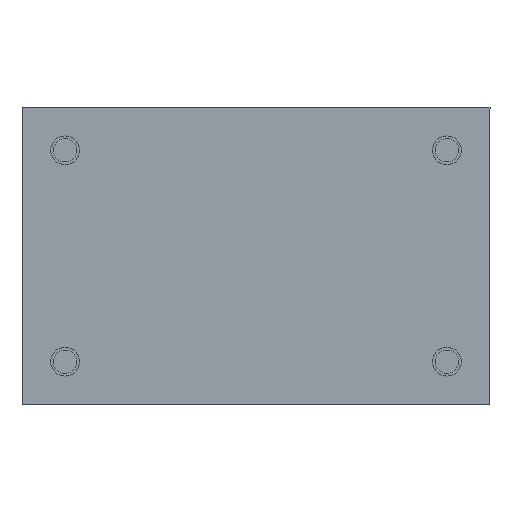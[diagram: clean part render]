
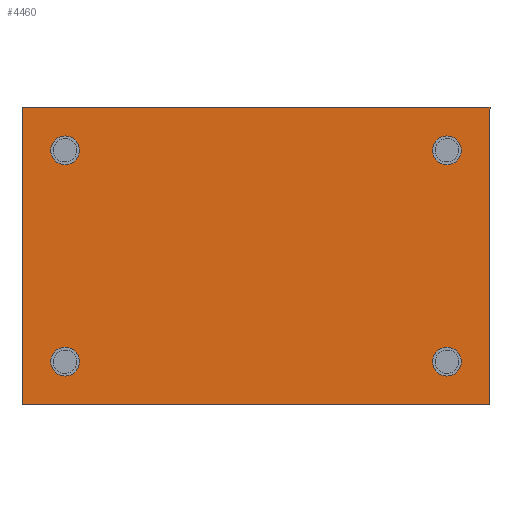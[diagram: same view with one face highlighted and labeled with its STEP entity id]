
A CAD part, front view. The second image highlights one B-rep face of the part: STEP entity #4460.
In plain terms, the highlighted planar face has unit normal (0, -1, 0).
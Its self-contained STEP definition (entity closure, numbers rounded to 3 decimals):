
#23 = CARTESIAN_POINT ( 'NONE',  ( 0.606, 13.272, 60.844 ) ) ;
#240 = EDGE_LOOP ( 'NONE', ( #3191, #3703 ) ) ;
#800 = EDGE_CURVE ( 'NONE', #16917, #23917, #14996, .T. ) ;
#858 = ORIENTED_EDGE ( 'NONE', *, *, #6724, .F. ) ;
#944 = FACE_BOUND ( 'NONE', #17176, .T. ) ;
#1006 = EDGE_CURVE ( 'NONE', #5483, #22077, #11642, .T. ) ;
#1127 = CARTESIAN_POINT ( 'NONE',  ( 46.072, 13.272, 60.844 ) ) ;
#1361 = DIRECTION ( 'NONE',  ( 0., -1., 0. ) ) ;
#1612 = CARTESIAN_POINT ( 'NONE',  ( -1.172, 13.272, 60.844 ) ) ;
#1743 = CARTESIAN_POINT ( 'NONE',  ( -2.95, 13.272, 60.844 ) ) ;
#1982 = CIRCLE ( 'NONE', #9574, 1.778 ) ;
#2123 = CARTESIAN_POINT ( 'NONE',  ( 47.85, 13.272, 34.682 ) ) ;
#2453 = EDGE_CURVE ( 'NONE', #20595, #21784, #13054, .T. ) ;
#2703 = ORIENTED_EDGE ( 'NONE', *, *, #8236, .F. ) ;
#3029 = CARTESIAN_POINT ( 'NONE',  ( 44.294, 13.272, 60.844 ) ) ;
#3174 = DIRECTION ( 'NONE',  ( 0., 0., 1. ) ) ;
#3191 = ORIENTED_EDGE ( 'NONE', *, *, #15722, .F. ) ;
#3309 = CARTESIAN_POINT ( 'NONE',  ( -2.95, 13.272, 34.682 ) ) ;
#3444 = DIRECTION ( 'NONE',  ( 0., -1., 0. ) ) ;
#3703 = ORIENTED_EDGE ( 'NONE', *, *, #2453, .F. ) ;
#4126 = CARTESIAN_POINT ( 'NONE',  ( 51.406, 13.272, 66.178 ) ) ;
#4259 = LINE ( 'NONE', #4126, #22865 ) ;
#4440 = VECTOR ( 'NONE', #13126, 1000. ) ;
#4460 = ADVANCED_FACE ( 'NONE', ( #4803, #944, #12673, #20335, #18179 ), #9045, .F. ) ;
#4803 = FACE_BOUND ( 'NONE', #18350, .T. ) ;
#4974 = CARTESIAN_POINT ( 'NONE',  ( 46.072, 13.272, 60.844 ) ) ;
#5464 = DIRECTION ( 'NONE',  ( -1., 0., 0. ) ) ;
#5483 = VERTEX_POINT ( 'NONE', #23 ) ;
#5622 = DIRECTION ( 'NONE',  ( 1., 0., 0. ) ) ;
#5756 = AXIS2_PLACEMENT_3D ( 'NONE', #1612, #16861, #7588 ) ;
#5930 = EDGE_LOOP ( 'NONE', ( #21774, #5986, #10900, #11591 ) ) ;
#5935 = DIRECTION ( 'NONE',  ( 1., 0., 0. ) ) ;
#5986 = ORIENTED_EDGE ( 'NONE', *, *, #14165, .F. ) ;
#6694 = DIRECTION ( 'NONE',  ( 0., -1., 0. ) ) ;
#6724 = EDGE_CURVE ( 'NONE', #19035, #9271, #20977, .T. ) ;
#6763 = DIRECTION ( 'NONE',  ( 1., 0., 0. ) ) ;
#6793 = VECTOR ( 'NONE', #5464, 1000. ) ;
#7588 = DIRECTION ( 'NONE',  ( 1., 0., 0. ) ) ;
#7686 = ORIENTED_EDGE ( 'NONE', *, *, #17096, .F. ) ;
#7751 = EDGE_CURVE ( 'NONE', #22077, #5483, #10552, .T. ) ;
#8236 = EDGE_CURVE ( 'NONE', #8319, #15059, #21446, .T. ) ;
#8319 = VERTEX_POINT ( 'NONE', #19314 ) ;
#8541 = VERTEX_POINT ( 'NONE', #10225 ) ;
#8602 = AXIS2_PLACEMENT_3D ( 'NONE', #16694, #13072, #24408 ) ;
#9045 = PLANE ( 'NONE',  #10626 ) ;
#9271 = VERTEX_POINT ( 'NONE', #20063 ) ;
#9574 = AXIS2_PLACEMENT_3D ( 'NONE', #23695, #6694, #10345 ) ;
#9690 = ORIENTED_EDGE ( 'NONE', *, *, #7751, .F. ) ;
#10225 = CARTESIAN_POINT ( 'NONE',  ( -6.506, 13.272, 66.178 ) ) ;
#10345 = DIRECTION ( 'NONE',  ( 1., 0., 0. ) ) ;
#10459 = AXIS2_PLACEMENT_3D ( 'NONE', #1127, #1361, #20639 ) ;
#10552 = CIRCLE ( 'NONE', #5756, 1.778 ) ;
#10626 = AXIS2_PLACEMENT_3D ( 'NONE', #10658, #20457, #24264 ) ;
#10658 = CARTESIAN_POINT ( 'NONE',  ( 51.406, 13.272, 66.178 ) ) ;
#10900 = ORIENTED_EDGE ( 'NONE', *, *, #16501, .F. ) ;
#11220 = CARTESIAN_POINT ( 'NONE',  ( 51.406, 13.272, 66.178 ) ) ;
#11233 = CARTESIAN_POINT ( 'NONE',  ( 51.406, 13.272, 66.178 ) ) ;
#11236 = EDGE_LOOP ( 'NONE', ( #16227, #9690 ) ) ;
#11591 = ORIENTED_EDGE ( 'NONE', *, *, #800, .F. ) ;
#11642 = CIRCLE ( 'NONE', #12037, 1.778 ) ;
#12037 = AXIS2_PLACEMENT_3D ( 'NONE', #22913, #3444, #5935 ) ;
#12619 = DIRECTION ( 'NONE',  ( 0., -1., 0. ) ) ;
#12673 = FACE_BOUND ( 'NONE', #240, .T. ) ;
#13049 = CARTESIAN_POINT ( 'NONE',  ( 0.606, 13.272, 34.682 ) ) ;
#13054 = CIRCLE ( 'NONE', #21507, 1.778 ) ;
#13072 = DIRECTION ( 'NONE',  ( 0., -1., 0. ) ) ;
#13126 = DIRECTION ( 'NONE',  ( 1., 0., 0. ) ) ;
#13241 = VECTOR ( 'NONE', #3174, 1000. ) ;
#13620 = EDGE_CURVE ( 'NONE', #15059, #8319, #1982, .T. ) ;
#14165 = EDGE_CURVE ( 'NONE', #8541, #16829, #15237, .T. ) ;
#14711 = LINE ( 'NONE', #16093, #13241 ) ;
#14996 = LINE ( 'NONE', #22820, #6793 ) ;
#15059 = VERTEX_POINT ( 'NONE', #2123 ) ;
#15237 = LINE ( 'NONE', #11220, #4440 ) ;
#15570 = CIRCLE ( 'NONE', #21225, 1.778 ) ;
#15722 = EDGE_CURVE ( 'NONE', #21784, #20595, #15570, .T. ) ;
#15946 = EDGE_CURVE ( 'NONE', #16829, #16917, #4259, .T. ) ;
#16093 = CARTESIAN_POINT ( 'NONE',  ( -6.506, 13.272, 66.178 ) ) ;
#16227 = ORIENTED_EDGE ( 'NONE', *, *, #1006, .F. ) ;
#16259 = DIRECTION ( 'NONE',  ( 1., 0., 0. ) ) ;
#16293 = DIRECTION ( 'NONE',  ( 0., -1., 0. ) ) ;
#16501 = EDGE_CURVE ( 'NONE', #23917, #8541, #14711, .T. ) ;
#16550 = CARTESIAN_POINT ( 'NONE',  ( -6.506, 13.272, 29.348 ) ) ;
#16694 = CARTESIAN_POINT ( 'NONE',  ( 46.072, 13.272, 34.682 ) ) ;
#16829 = VERTEX_POINT ( 'NONE', #11233 ) ;
#16861 = DIRECTION ( 'NONE',  ( 0., -1., 0. ) ) ;
#16917 = VERTEX_POINT ( 'NONE', #19003 ) ;
#17096 = EDGE_CURVE ( 'NONE', #9271, #19035, #21312, .T. ) ;
#17176 = EDGE_LOOP ( 'NONE', ( #17198, #2703 ) ) ;
#17198 = ORIENTED_EDGE ( 'NONE', *, *, #13620, .F. ) ;
#17761 = AXIS2_PLACEMENT_3D ( 'NONE', #4974, #12619, #16259 ) ;
#18179 = FACE_OUTER_BOUND ( 'NONE', #5930, .T. ) ;
#18350 = EDGE_LOOP ( 'NONE', ( #7686, #858 ) ) ;
#19003 = CARTESIAN_POINT ( 'NONE',  ( 51.406, 13.272, 29.348 ) ) ;
#19035 = VERTEX_POINT ( 'NONE', #3029 ) ;
#19039 = CARTESIAN_POINT ( 'NONE',  ( -1.172, 13.272, 34.682 ) ) ;
#19314 = CARTESIAN_POINT ( 'NONE',  ( 44.294, 13.272, 34.682 ) ) ;
#20063 = CARTESIAN_POINT ( 'NONE',  ( 47.85, 13.272, 60.844 ) ) ;
#20335 = FACE_BOUND ( 'NONE', #11236, .T. ) ;
#20457 = DIRECTION ( 'NONE',  ( 0., 1., 0. ) ) ;
#20595 = VERTEX_POINT ( 'NONE', #3309 ) ;
#20639 = DIRECTION ( 'NONE',  ( 1., 0., 0. ) ) ;
#20977 = CIRCLE ( 'NONE', #17761, 1.778 ) ;
#21075 = DIRECTION ( 'NONE',  ( 0., 0., -1. ) ) ;
#21225 = AXIS2_PLACEMENT_3D ( 'NONE', #24007, #16293, #6763 ) ;
#21312 = CIRCLE ( 'NONE', #10459, 1.778 ) ;
#21446 = CIRCLE ( 'NONE', #8602, 1.778 ) ;
#21507 = AXIS2_PLACEMENT_3D ( 'NONE', #19039, #22603, #5622 ) ;
#21774 = ORIENTED_EDGE ( 'NONE', *, *, #15946, .F. ) ;
#21784 = VERTEX_POINT ( 'NONE', #13049 ) ;
#22077 = VERTEX_POINT ( 'NONE', #1743 ) ;
#22603 = DIRECTION ( 'NONE',  ( 0., -1., 0. ) ) ;
#22820 = CARTESIAN_POINT ( 'NONE',  ( 51.406, 13.272, 29.348 ) ) ;
#22865 = VECTOR ( 'NONE', #21075, 1000. ) ;
#22913 = CARTESIAN_POINT ( 'NONE',  ( -1.172, 13.272, 60.844 ) ) ;
#23695 = CARTESIAN_POINT ( 'NONE',  ( 46.072, 13.272, 34.682 ) ) ;
#23917 = VERTEX_POINT ( 'NONE', #16550 ) ;
#24007 = CARTESIAN_POINT ( 'NONE',  ( -1.172, 13.272, 34.682 ) ) ;
#24264 = DIRECTION ( 'NONE',  ( -1., 0., 0. ) ) ;
#24408 = DIRECTION ( 'NONE',  ( 1., 0., 0. ) ) ;
